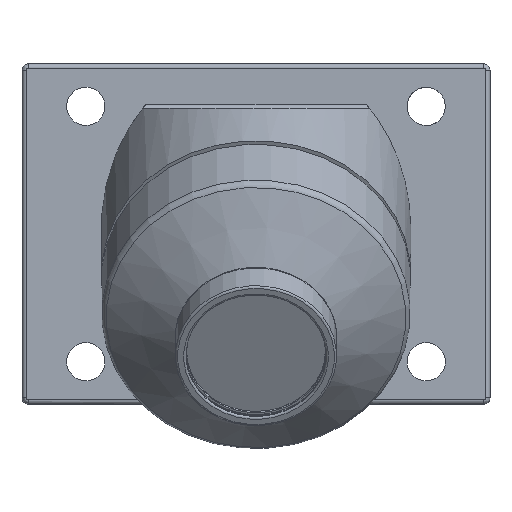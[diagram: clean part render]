
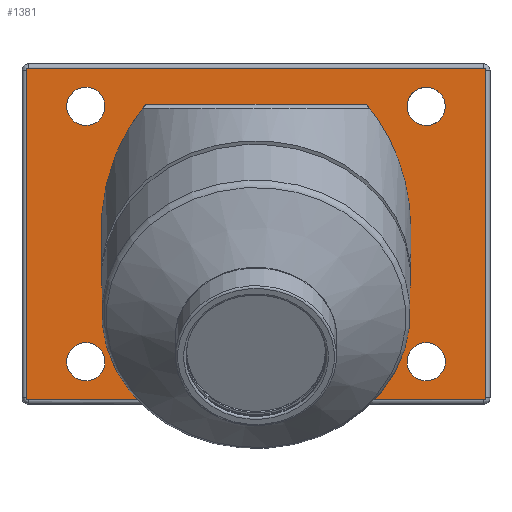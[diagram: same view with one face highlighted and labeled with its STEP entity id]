
A CAD part, top view. The second image highlights one B-rep face of the part: STEP entity #1381.
In plain terms, the highlighted planar face has unit normal (0, 0, 1).
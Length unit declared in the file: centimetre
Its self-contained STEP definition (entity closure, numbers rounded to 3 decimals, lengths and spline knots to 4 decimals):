
#17=ELLIPSE('',#1520,8.4004,7.275);
#18=ELLIPSE('',#1521,8.4004,7.275);
#23=LINE('',#2235,#48);
#25=LINE('',#2258,#50);
#26=LINE('',#2262,#51);
#27=LINE('',#2266,#52);
#28=LINE('',#2270,#53);
#29=LINE('',#2273,#54);
#48=VECTOR('',#1789,10.368);
#50=VECTOR('',#1797,8.4977);
#51=VECTOR('',#1800,15.4);
#52=VECTOR('',#1803,21.4);
#53=VECTOR('',#1806,15.4);
#54=VECTOR('',#1809,8.4977);
#164=FACE_BOUND('',#400,.T.);
#165=FACE_BOUND('',#401,.T.);
#166=FACE_BOUND('',#402,.T.);
#167=FACE_BOUND('',#403,.T.);
#269=FACE_OUTER_BOUND('',#399,.T.);
#399=EDGE_LOOP('',(#974,#975,#976,#977,#978,#979,#980,#981,#982,#983,#984,
#985));
#400=EDGE_LOOP('',(#986));
#401=EDGE_LOOP('',(#987));
#402=EDGE_LOOP('',(#988));
#403=EDGE_LOOP('',(#989));
#573=CIRCLE('',#1522,0.1);
#574=CIRCLE('',#1523,0.1);
#575=CIRCLE('',#1524,0.1);
#576=CIRCLE('',#1525,0.1);
#577=CIRCLE('',#1526,0.9);
#578=CIRCLE('',#1527,0.9);
#579=CIRCLE('',#1528,0.9);
#580=CIRCLE('',#1529,0.9);
#680=VERTEX_POINT('',#2219);
#681=VERTEX_POINT('',#2234);
#683=VERTEX_POINT('',#2253);
#684=VERTEX_POINT('',#2255);
#685=VERTEX_POINT('',#2257);
#686=VERTEX_POINT('',#2259);
#687=VERTEX_POINT('',#2261);
#688=VERTEX_POINT('',#2263);
#689=VERTEX_POINT('',#2265);
#690=VERTEX_POINT('',#2267);
#691=VERTEX_POINT('',#2269);
#692=VERTEX_POINT('',#2271);
#693=VERTEX_POINT('',#2274);
#694=VERTEX_POINT('',#2276);
#695=VERTEX_POINT('',#2278);
#696=VERTEX_POINT('',#2280);
#803=EDGE_CURVE('',#680,#681,#23,.T.);
#806=EDGE_CURVE('',#681,#683,#17,.T.);
#807=EDGE_CURVE('',#684,#680,#18,.T.);
#808=EDGE_CURVE('',#685,#684,#25,.T.);
#809=EDGE_CURVE('',#686,#685,#573,.T.);
#810=EDGE_CURVE('',#687,#686,#26,.T.);
#811=EDGE_CURVE('',#688,#687,#574,.T.);
#812=EDGE_CURVE('',#689,#688,#27,.T.);
#813=EDGE_CURVE('',#690,#689,#575,.T.);
#814=EDGE_CURVE('',#691,#690,#28,.T.);
#815=EDGE_CURVE('',#692,#691,#576,.T.);
#816=EDGE_CURVE('',#683,#692,#29,.T.);
#817=EDGE_CURVE('',#693,#693,#577,.T.);
#818=EDGE_CURVE('',#694,#694,#578,.T.);
#819=EDGE_CURVE('',#695,#695,#579,.T.);
#820=EDGE_CURVE('',#696,#696,#580,.T.);
#974=ORIENTED_EDGE('',*,*,#806,.F.);
#975=ORIENTED_EDGE('',*,*,#803,.F.);
#976=ORIENTED_EDGE('',*,*,#807,.F.);
#977=ORIENTED_EDGE('',*,*,#808,.F.);
#978=ORIENTED_EDGE('',*,*,#809,.F.);
#979=ORIENTED_EDGE('',*,*,#810,.F.);
#980=ORIENTED_EDGE('',*,*,#811,.F.);
#981=ORIENTED_EDGE('',*,*,#812,.F.);
#982=ORIENTED_EDGE('',*,*,#813,.F.);
#983=ORIENTED_EDGE('',*,*,#814,.F.);
#984=ORIENTED_EDGE('',*,*,#815,.F.);
#985=ORIENTED_EDGE('',*,*,#816,.F.);
#986=ORIENTED_EDGE('',*,*,#817,.T.);
#987=ORIENTED_EDGE('',*,*,#818,.T.);
#988=ORIENTED_EDGE('',*,*,#819,.T.);
#989=ORIENTED_EDGE('',*,*,#820,.T.);
#1219=PLANE('',#1519);
#1381=ADVANCED_FACE('',(#269,#164,#165,#166,#167),#1219,.T.);
#1519=AXIS2_PLACEMENT_3D('',#2252,#1791,#1792);
#1520=AXIS2_PLACEMENT_3D('',#2254,#1793,#1794);
#1521=AXIS2_PLACEMENT_3D('',#2256,#1795,#1796);
#1522=AXIS2_PLACEMENT_3D('',#2260,#1798,#1799);
#1523=AXIS2_PLACEMENT_3D('',#2264,#1801,#1802);
#1524=AXIS2_PLACEMENT_3D('',#2268,#1804,#1805);
#1525=AXIS2_PLACEMENT_3D('',#2272,#1807,#1808);
#1526=AXIS2_PLACEMENT_3D('',#2275,#1810,#1811);
#1527=AXIS2_PLACEMENT_3D('',#2277,#1812,#1813);
#1528=AXIS2_PLACEMENT_3D('',#2279,#1814,#1815);
#1529=AXIS2_PLACEMENT_3D('',#2281,#1816,#1817);
#1789=DIRECTION('',(-1.,0.,0.));
#1791=DIRECTION('center_axis',(0.,0.,
1.));
#1792=DIRECTION('ref_axis',(-1.,0.,0.));
#1793=DIRECTION('center_axis',(0.,0.,
1.));
#1794=DIRECTION('ref_axis',(0.,1.,0.));
#1795=DIRECTION('center_axis',(0.,0.,
1.));
#1796=DIRECTION('ref_axis',(0.,1.,0.));
#1797=DIRECTION('',(-1.,0.,0.));
#1798=DIRECTION('center_axis',(0.,0.,
-1.));
#1799=DIRECTION('ref_axis',(0.707,-0.707,0.));
#1800=DIRECTION('',(0.,-1.,0.));
#1801=DIRECTION('center_axis',(0.,0.,
-1.));
#1802=DIRECTION('ref_axis',(0.707,0.707,0.));
#1803=DIRECTION('',(1.,0.,0.));
#1804=DIRECTION('center_axis',(0.,0.,
-1.));
#1805=DIRECTION('ref_axis',(-0.707,0.707,0.));
#1806=DIRECTION('',(0.,1.,0.));
#1807=DIRECTION('center_axis',(0.,0.,
-1.));
#1808=DIRECTION('ref_axis',(-0.707,-0.707,0.));
#1809=DIRECTION('',(-1.,0.,0.));
#1810=DIRECTION('center_axis',(0.,0.,
-1.));
#1811=DIRECTION('ref_axis',(1.,0.,0.));
#1812=DIRECTION('center_axis',(0.,0.,
-1.));
#1813=DIRECTION('ref_axis',(1.,0.,0.));
#1814=DIRECTION('center_axis',(0.,0.,
-1.));
#1815=DIRECTION('ref_axis',(1.,0.,0.));
#1816=DIRECTION('center_axis',(0.,0.,
-1.));
#1817=DIRECTION('ref_axis',(1.,0.,0.));
#2219=CARTESIAN_POINT('',(5.184,8.7285,2.3));
#2234=CARTESIAN_POINT('',(-5.184,8.7285,2.3));
#2235=CARTESIAN_POINT('',(-3.3724,8.7285,2.3));
#2252=CARTESIAN_POINT('Origin',(0.,2.6285,2.3));
#2253=CARTESIAN_POINT('',(-2.2023,-5.1715,2.3));
#2254=CARTESIAN_POINT('Origin',(0.,2.8348,2.3));
#2255=CARTESIAN_POINT('',(2.2023,-5.1715,2.3));
#2256=CARTESIAN_POINT('Origin',(0.,2.8348,2.3));
#2257=CARTESIAN_POINT('',(10.7,-5.1715,2.3));
#2258=CARTESIAN_POINT('',(-5.5,-5.1715,2.3));
#2259=CARTESIAN_POINT('',(10.8,-5.0715,2.3));
#2260=CARTESIAN_POINT('Origin',(10.7,-5.0715,2.3));
#2261=CARTESIAN_POINT('',(10.8,10.3285,2.3));
#2262=CARTESIAN_POINT('',(10.8,-1.3715,2.3));
#2263=CARTESIAN_POINT('',(10.7,10.4285,2.3));
#2264=CARTESIAN_POINT('Origin',(10.7,10.3285,2.3));
#2265=CARTESIAN_POINT('',(-10.7,10.4285,2.3));
#2266=CARTESIAN_POINT('',(5.5,10.4285,2.3));
#2267=CARTESIAN_POINT('',(-10.8,10.3285,2.3));
#2268=CARTESIAN_POINT('Origin',(-10.7,10.3285,2.3));
#2269=CARTESIAN_POINT('',(-10.8,-5.0715,2.3));
#2270=CARTESIAN_POINT('',(-10.8,6.6285,2.3));
#2271=CARTESIAN_POINT('',(-10.7,-5.1715,2.3));
#2272=CARTESIAN_POINT('Origin',(-10.7,-5.0715,2.3));
#2273=CARTESIAN_POINT('',(-5.5,-5.1715,2.3));
#2274=CARTESIAN_POINT('',(-7.1,8.6285,2.3));
#2275=CARTESIAN_POINT('Origin',(-8.,8.6285,2.3));
#2276=CARTESIAN_POINT('',(-7.1,-3.3715,2.3));
#2277=CARTESIAN_POINT('Origin',(-8.,-3.3715,2.3));
#2278=CARTESIAN_POINT('',(8.8944,8.5285,2.3));
#2279=CARTESIAN_POINT('Origin',(8.,8.6285,2.3));
#2280=CARTESIAN_POINT('',(8.9,-3.3715,2.3));
#2281=CARTESIAN_POINT('Origin',(8.,-3.3715,2.3));
